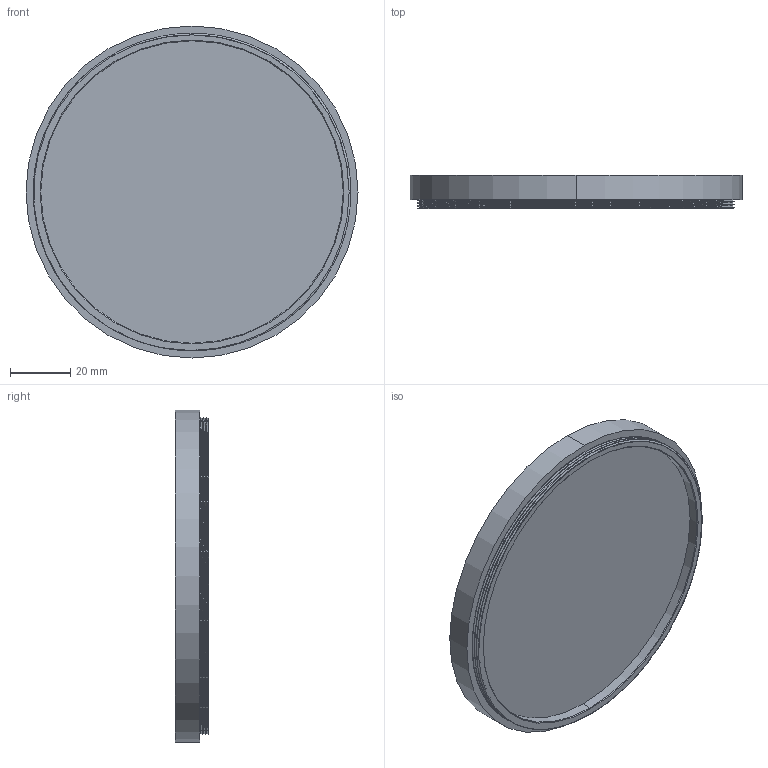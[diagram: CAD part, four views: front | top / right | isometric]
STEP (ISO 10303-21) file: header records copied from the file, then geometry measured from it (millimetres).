
FILE_DESCRIPTION (( 'STEP AP214' ), '1' );
FILE_NAME ('M105 x P1.STEP', '2023-01-19T08:17:41', ( '' ), ( '' ), 'SwSTEP 2.0', 'SolidWorks 2021', '' );
FILE_SCHEMA (( 'AUTOMOTIVE_DESIGN' ));
Length unit declared in the file: millimetre
Products named in the file (1): M105 x P1
Bounding box: 109.8 x 11 x 109.8 mm (x, y, z)
Volume: 14159.7 mm3; surface area: 30112.1 mm2
Topology: 3 solids, 3 shells, 51 faces, 122 edges, 81 vertices
Faces by surface type: cylinder 30, plane 11, bspline 8, cone 2
Entity records: 3512 total; most frequent: CARTESIAN_POINT 2412, ORIENTED_EDGE 244, DIRECTION 186, EDGE_CURVE 122, VERTEX_POINT 81, AXIS2_PLACEMENT_3D 77, EDGE_LOOP 59, FACE_OUTER_BOUND 51
